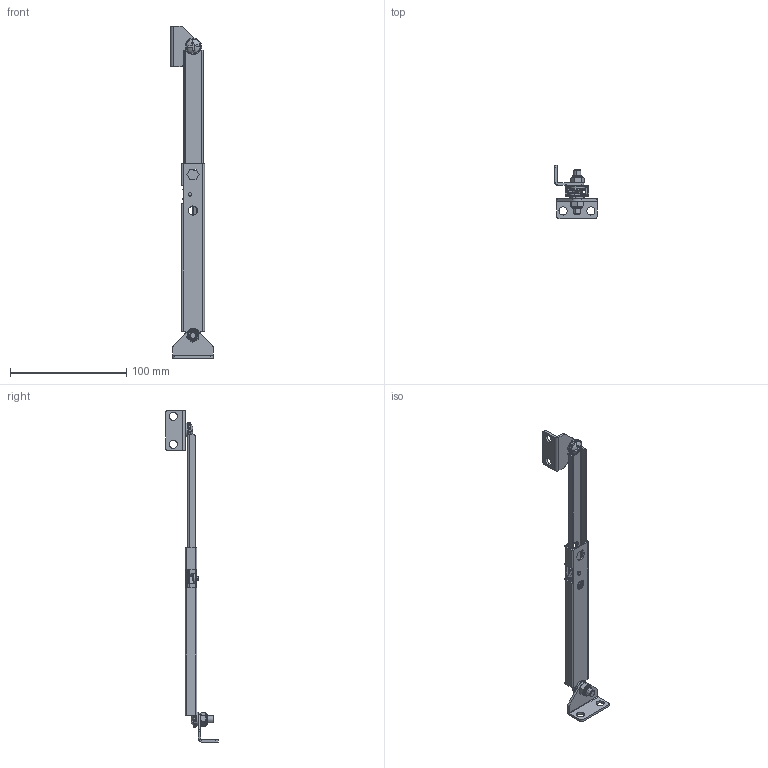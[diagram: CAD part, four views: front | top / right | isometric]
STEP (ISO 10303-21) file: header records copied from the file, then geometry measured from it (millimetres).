
FILE_DESCRIPTION (( 'STEP AP214' ), '1' );
FILE_NAME ('4.401.108.STEP', '2016-09-09T06:56:56', ( '' ), ( '' ), 'SwSTEP 2.0', 'SolidWorks 2015', '' );
FILE_SCHEMA (( 'AUTOMOTIVE_DESIGN' ));
Length unit declared in the file: millimetre
Products named in the file (10): 4.401.106.02_A; 4.401.106.01_A; M6x16-DIN 967_M6x16; M6-DIN985_M6; Podk³adka M6_M6; 4.401.105.04_A; 4.401.105.07_A; 4.401.105.05_A; 4.401.105.06_A; 4.401.108
Assembly tree (13 placements, depth 2):
  4.401.108
    4.401.105.06_A
    4.401.105.05_A
    4.401.105.07_A
    4.401.105.04_A  x2
    Podk³adka M6_M6  x2
    M6-DIN985_M6  x2
    M6x16-DIN 967_M6x16  x2
    4.401.106.01_A
    4.401.106.02_A
Bounding box: 36.7 x 45.2 x 286.1 mm (x, y, z)
Volume: 19878 mm3; surface area: 31097.6 mm2
Topology: 13 solids, 13 shells, 357 faces, 859 edges, 534 vertices
Faces by surface type: plane 193, cylinder 108, cone 32, torus 20, sphere 4
Entity records: 7971 total; most frequent: CARTESIAN_POINT 1391, DIRECTION 1357, ORIENTED_EDGE 1234, EDGE_CURVE 617, AXIS2_PLACEMENT_3D 494, VERTEX_POINT 384, LINE 369, VECTOR 369
